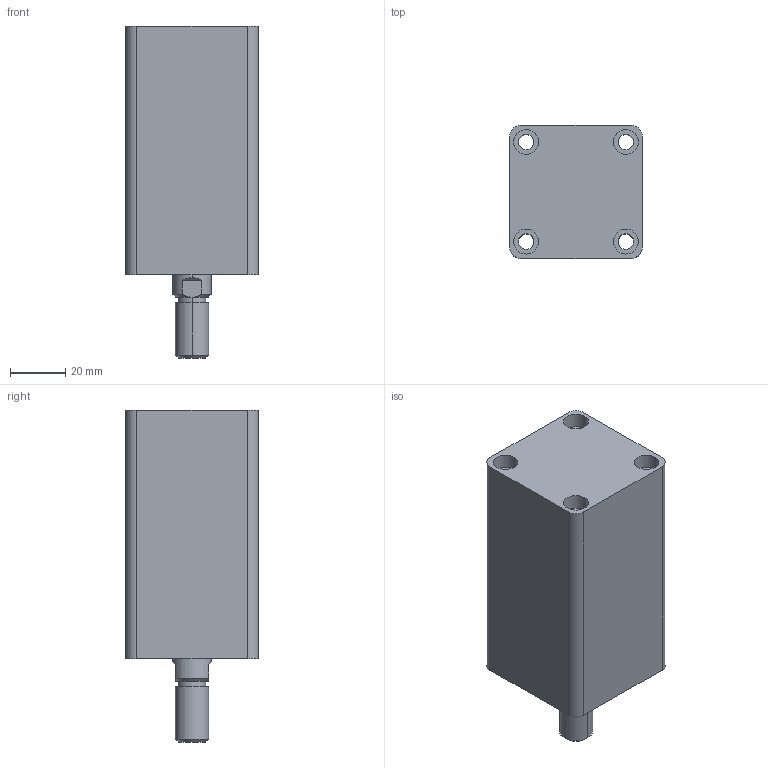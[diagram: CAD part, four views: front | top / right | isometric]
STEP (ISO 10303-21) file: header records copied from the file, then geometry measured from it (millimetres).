
FILE_DESCRIPTION (( 'STEP AP203' ), '1' );
FILE_NAME ('HTB-SD25-45W.STEP', '2019-10-07T06:03:37', ( '微软用户' ), ( '微软中国' ), 'SwSTEP 2.0', 'SolidWorks 2012', '' );
FILE_SCHEMA (( 'CONFIG_CONTROL_DESIGN' ));
Length unit declared in the file: millimetre
Products named in the file (3): HTB-SD25-45W活塞杆; HTB-SD25-45掛极; HTB-SD25-45W
Assembly tree (2 placements, depth 2):
  HTB-SD25-45W
    HTB-SD25-45掛极
    HTB-SD25-45W活塞杆
Bounding box: 48 x 48 x 120 mm (x, y, z)
Volume: 182929.4 mm3; surface area: 40913.2 mm2
Topology: 2 solids, 2 shells, 87 faces, 188 edges, 122 vertices
Faces by surface type: cylinder 44, plane 29, cone 8, torus 6
Entity records: 2759 total; most frequent: DIRECTION 476, CARTESIAN_POINT 446, ORIENTED_EDGE 376, AXIS2_PLACEMENT_3D 204, EDGE_CURVE 188, VERTEX_POINT 122, CIRCLE 112, EDGE_LOOP 112
